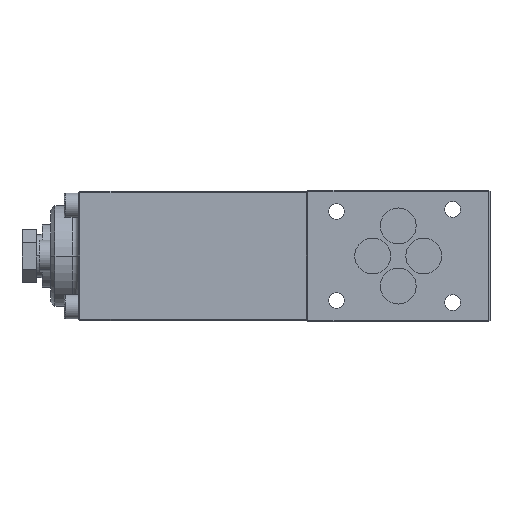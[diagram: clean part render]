
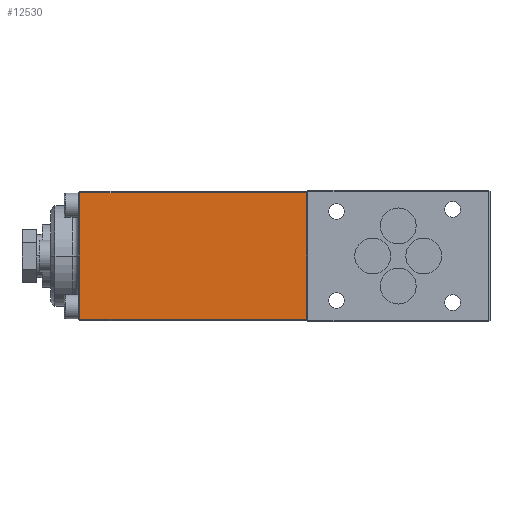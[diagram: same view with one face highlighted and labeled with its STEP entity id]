
A CAD part, front view. The second image highlights one B-rep face of the part: STEP entity #12530.
In plain terms, the highlighted planar face has unit normal (0, -1, 0).
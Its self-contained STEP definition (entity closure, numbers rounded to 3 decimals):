
#578 = EDGE_CURVE ( 'NONE', #10144, #3149, #7332, .T. ) ;
#976 = LINE ( 'NONE', #4771, #2136 ) ;
#2136 = VECTOR ( 'NONE', #3657, 1000. ) ;
#2322 = VERTEX_POINT ( 'NONE', #5542 ) ;
#3149 = VERTEX_POINT ( 'NONE', #5079 ) ;
#3312 = VECTOR ( 'NONE', #15556, 1000. ) ;
#3657 = DIRECTION ( 'NONE',  ( 1., 0., 0. ) ) ;
#4073 = AXIS2_PLACEMENT_3D ( 'NONE', #8394, #4243, #8314 ) ;
#4243 = DIRECTION ( 'NONE',  ( 0., 1., 0. ) ) ;
#4771 = CARTESIAN_POINT ( 'NONE',  ( -25., -22.5, -22. ) ) ;
#5079 = CARTESIAN_POINT ( 'NONE',  ( -79., -22.5, -22. ) ) ;
#5102 = VECTOR ( 'NONE', #15858, 1000. ) ;
#5460 = CARTESIAN_POINT ( 'NONE',  ( -25., -22.5, 22. ) ) ;
#5542 = CARTESIAN_POINT ( 'NONE',  ( 0., -22.5, -22. ) ) ;
#6054 = EDGE_CURVE ( 'NONE', #13803, #10144, #12114, .T. ) ;
#6990 = ORIENTED_EDGE ( 'NONE', *, *, #15580, .T. ) ;
#7165 = EDGE_CURVE ( 'NONE', #2322, #13803, #13992, .T. ) ;
#7332 = LINE ( 'NONE', #15776, #5102 ) ;
#8314 = DIRECTION ( 'NONE',  ( 0., 0., 1. ) ) ;
#8394 = CARTESIAN_POINT ( 'NONE',  ( -25., -22.5, 22.5 ) ) ;
#9046 = ORIENTED_EDGE ( 'NONE', *, *, #6054, .T. ) ;
#9449 = FACE_OUTER_BOUND ( 'NONE', #14398, .T. ) ;
#10144 = VERTEX_POINT ( 'NONE', #14316 ) ;
#10742 = DIRECTION ( 'NONE',  ( -1., 0., 0. ) ) ;
#11560 = CARTESIAN_POINT ( 'NONE',  ( 0., -22.5, -22.5 ) ) ;
#12114 = LINE ( 'NONE', #5460, #13245 ) ;
#12440 = ORIENTED_EDGE ( 'NONE', *, *, #578, .T. ) ;
#12530 = ADVANCED_FACE ( 'NONE', ( #9449 ), #16202, .F. ) ;
#12630 = ORIENTED_EDGE ( 'NONE', *, *, #7165, .T. ) ;
#13245 = VECTOR ( 'NONE', #10742, 1000. ) ;
#13803 = VERTEX_POINT ( 'NONE', #16066 ) ;
#13992 = LINE ( 'NONE', #11560, #3312 ) ;
#14316 = CARTESIAN_POINT ( 'NONE',  ( -79., -22.5, 22. ) ) ;
#14398 = EDGE_LOOP ( 'NONE', ( #12440, #6990, #12630, #9046 ) ) ;
#15556 = DIRECTION ( 'NONE',  ( 0., 0., 1. ) ) ;
#15580 = EDGE_CURVE ( 'NONE', #3149, #2322, #976, .T. ) ;
#15776 = CARTESIAN_POINT ( 'NONE',  ( -79., -22.5, -22.5 ) ) ;
#15858 = DIRECTION ( 'NONE',  ( 0., 0., -1. ) ) ;
#16066 = CARTESIAN_POINT ( 'NONE',  ( 0., -22.5, 22. ) ) ;
#16202 = PLANE ( 'NONE',  #4073 ) ;
